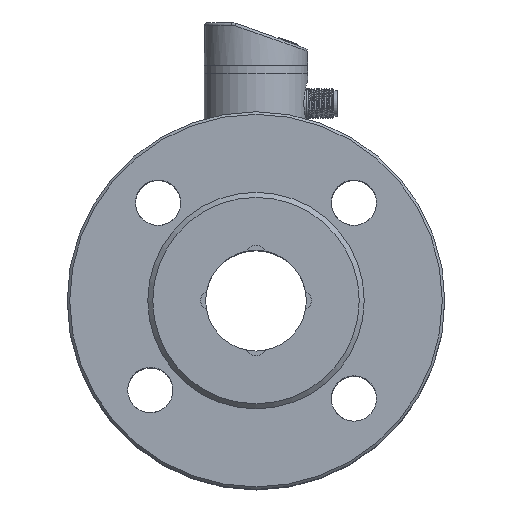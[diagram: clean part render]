
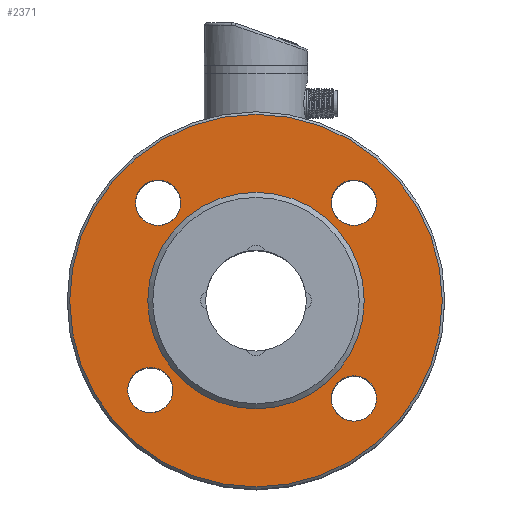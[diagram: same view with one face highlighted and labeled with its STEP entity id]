
A CAD part, top view. The second image highlights one B-rep face of the part: STEP entity #2371.
In plain terms, the highlighted planar face has unit normal (0, 0, 1).
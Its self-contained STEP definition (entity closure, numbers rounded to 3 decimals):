
#1708=PLANE('',#9301);
#2113=FACE_BOUND('',#3447,.T.);
#2114=FACE_BOUND('',#3448,.T.);
#2115=FACE_BOUND('',#3449,.T.);
#2116=FACE_BOUND('',#3450,.T.);
#2117=FACE_BOUND('',#3451,.T.);
#2118=FACE_BOUND('',#3452,.T.);
#2371=ADVANCED_FACE('',(#2113,#2114,#2115,#2116,#2117,#2118),#1708,.T.);
#3447=EDGE_LOOP('',(#4709));
#3448=EDGE_LOOP('',(#4710));
#3449=EDGE_LOOP('',(#4711));
#3450=EDGE_LOOP('',(#4712));
#3451=EDGE_LOOP('',(#4713));
#3452=EDGE_LOOP('',(#4714));
#4003=CIRCLE('',#9184,9.);
#4005=CIRCLE('',#9187,9.);
#4007=CIRCLE('',#9190,9.);
#4009=CIRCLE('',#9193,9.);
#4068=CIRCLE('',#9299,74.);
#4069=CIRCLE('',#9300,43.);
#4709=ORIENTED_EDGE('',*,*,#7403,.T.);
#4710=ORIENTED_EDGE('',*,*,#7404,.T.);
#4711=ORIENTED_EDGE('',*,*,#7308,.T.);
#4712=ORIENTED_EDGE('',*,*,#7312,.T.);
#4713=ORIENTED_EDGE('',*,*,#7310,.T.);
#4714=ORIENTED_EDGE('',*,*,#7306,.F.);
#6582=VERTEX_POINT('',#12382);
#6584=VERTEX_POINT('',#12387);
#6586=VERTEX_POINT('',#12392);
#6588=VERTEX_POINT('',#12397);
#6655=VERTEX_POINT('',#13892);
#6656=VERTEX_POINT('',#13894);
#7306=EDGE_CURVE('',#6582,#6582,#4003,.T.);
#7308=EDGE_CURVE('',#6584,#6584,#4005,.T.);
#7310=EDGE_CURVE('',#6586,#6586,#4007,.T.);
#7312=EDGE_CURVE('',#6588,#6588,#4009,.T.);
#7403=EDGE_CURVE('',#6655,#6655,#4068,.T.);
#7404=EDGE_CURVE('',#6656,#6656,#4069,.T.);
#9184=AXIS2_PLACEMENT_3D('',#12381,#10178,#10179);
#9187=AXIS2_PLACEMENT_3D('',#12386,#10184,#10185);
#9190=AXIS2_PLACEMENT_3D('',#12391,#10190,#10191);
#9193=AXIS2_PLACEMENT_3D('',#12396,#10196,#10197);
#9299=AXIS2_PLACEMENT_3D('',#13891,#10426,#10427);
#9300=AXIS2_PLACEMENT_3D('',#13893,#10428,#10429);
#9301=AXIS2_PLACEMENT_3D('',#13895,#10430,#10431);
#10178=DIRECTION('',(0.,0.,1.));
#10179=DIRECTION('',(1.,0.,0.));
#10184=DIRECTION('',(0.,0.,-1.));
#10185=DIRECTION('',(1.,0.,0.));
#10190=DIRECTION('',(0.,0.,-1.));
#10191=DIRECTION('',(1.,0.,0.));
#10196=DIRECTION('',(0.,0.,-1.));
#10197=DIRECTION('',(1.,0.,0.));
#10426=DIRECTION('',(0.,0.,1.));
#10427=DIRECTION('',(1.,0.,0.));
#10428=DIRECTION('',(0.,0.,-1.));
#10429=DIRECTION('',(1.,0.,0.));
#10430=DIRECTION('',(0.,0.,1.));
#10431=DIRECTION('',(-1.,0.,0.));
#12381=CARTESIAN_POINT('',(38.891,38.891,66.));
#12382=CARTESIAN_POINT('',(47.891,38.891,66.));
#12386=CARTESIAN_POINT('',(-38.891,38.891,66.));
#12387=CARTESIAN_POINT('',(-29.891,38.891,66.));
#12391=CARTESIAN_POINT('',(38.891,-38.891,66.));
#12392=CARTESIAN_POINT('',(47.891,-38.891,66.));
#12396=CARTESIAN_POINT('',(-41.979,-35.535,66.));
#12397=CARTESIAN_POINT('',(-32.979,-35.535,66.));
#13891=CARTESIAN_POINT('',(0.,0.,66.));
#13892=CARTESIAN_POINT('',(74.,0.,66.));
#13893=CARTESIAN_POINT('',(0.,0.,66.));
#13894=CARTESIAN_POINT('',(43.,0.,66.));
#13895=CARTESIAN_POINT('',(0.,0.,66.));
